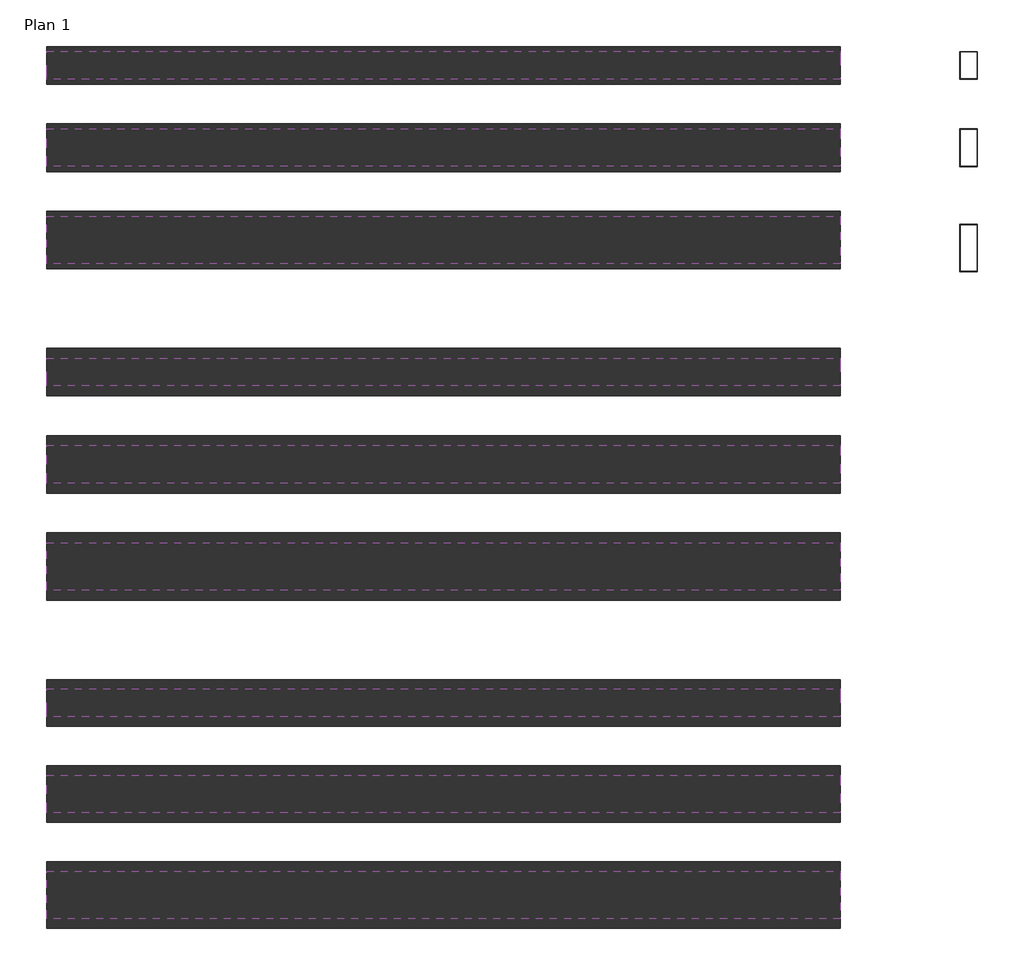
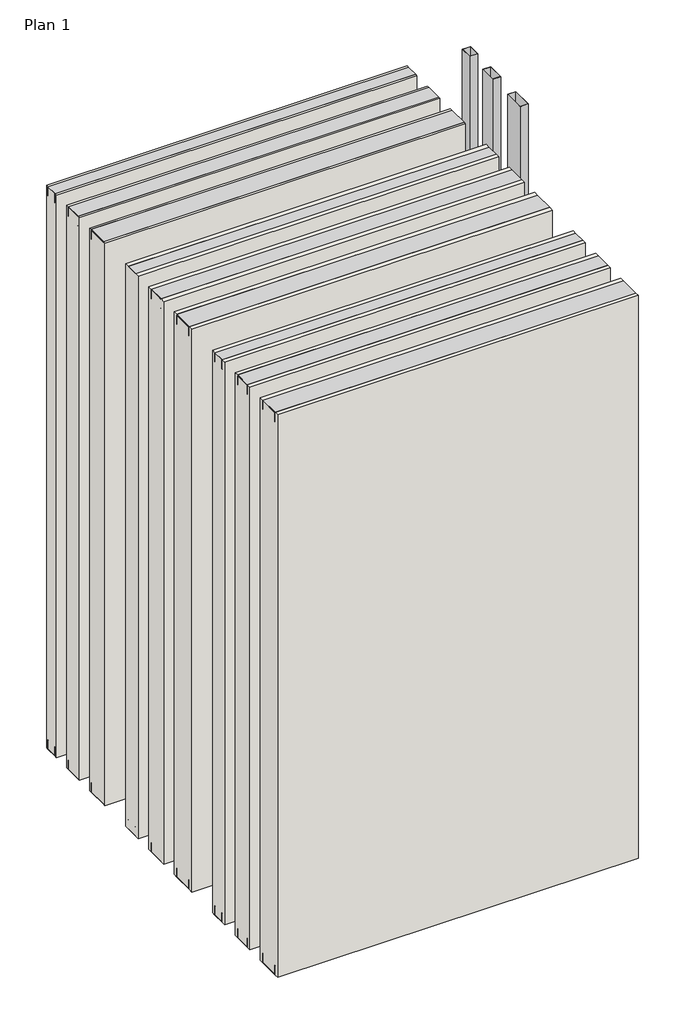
# One storey: 18 proxies, 9 walls, 3 columns.
"""IFC4 building model written with IfcOpenShell, lengths in millimetres."""

import ifcopenshell
import ifcopenshell.guid

model = None  # the IFC model being written
_history = None  # IfcOwnerHistory: only IFC2X3 demands one
_inside = {}  # id of a spatial element -> (the spatial element, [elements in it])
_under = {}  # id of a project, library or spatial element -> (it, [spatial elements below it])
_declared = {}  # id of a project -> (the project, [libraries it declares])
_typed = {}  # id of a type object -> (the type object, [elements of that type])
_made_of = {}  # id of a material, layer set ... -> (it, [elements and type objects made of it])


def new_model(schema):
    """Start an empty IFC model of exactly this schema.

    Asked for "IFC4X3", IfcOpenShell would pick the latest addendum, in which some entities
    have other attributes; the version numbers below select the first issue.
    IFC2X3 requires an IfcOwnerHistory on every rooted entity: one is made here for all.
    """
    global model, _history
    if schema == "IFC4X3":
        model = ifcopenshell.file(schema_version=(4, 3, 0, 0))
    else:
        model = ifcopenshell.file(schema=schema)
    _inside.clear()
    _under.clear()
    _declared.clear()
    _typed.clear()
    _made_of.clear()
    _history = None
    if model.schema == "IFC2X3":
        org = make("IfcOrganization", Name="unknown")
        user = make(
            "IfcPersonAndOrganization",
            ThePerson=make("IfcPerson", FamilyName="unknown"),
            TheOrganization=org,
        )
        app = make(
            "IfcApplication",
            ApplicationDeveloper=org,
            Version="unknown",
            ApplicationFullName="unknown",
            ApplicationIdentifier="unknown",
        )
        _history = make(
            "IfcOwnerHistory",
            OwningUser=user,
            OwningApplication=app,
            ChangeAction="ADDED",
            CreationDate=0,
        )
    return model


def make(cls, **values):
    """One entity of the class cls with the attributes given. An attribute that is None is left unset."""
    return model.create_entity(
        cls, **{name: value for name, value in values.items() if value is not None}
    )


def rooted(cls, **values):
    """An entity with a GlobalId (a new one), such as an element, a storey or a relation."""
    return make(cls, GlobalId=ifcopenshell.guid.new(), OwnerHistory=_history, **values)


def si_unit(unit_type, name, prefix=None):
    """IfcSIUnit, for example si_unit("LENGTHUNIT", "METRE", prefix="MILLI")."""
    return make("IfcSIUnit", UnitType=unit_type, Prefix=prefix, Name=name)


def assignment(units):
    """IfcUnitAssignment: the units of a project."""
    return None if units is None else make("IfcUnitAssignment", Units=units)


def point(xyz):
    """IfcCartesianPoint."""
    return None if xyz is None else make("IfcCartesianPoint", Coordinates=xyz)


def direction(xyz):
    """IfcDirection."""
    return None if xyz is None else make("IfcDirection", DirectionRatios=xyz)


def frame(location, z_axis=None, x_axis=None):
    """IfcAxis2Placement3D, a coordinate frame: its origin and axes. An axis left out is left unset."""
    return make(
        "IfcAxis2Placement3D",
        Location=point(location),
        Axis=direction(z_axis),
        RefDirection=direction(x_axis),
    )


def origin():
    """The frame at (0, 0, 0) with its axes left unset."""
    return frame((0.0, 0.0, 0.0))


def origin_with_axes():
    """The frame at (0, 0, 0) with the z axis (0, 0, 1) and the x axis (1, 0, 0) written out."""
    return frame((0.0, 0.0, 0.0), z_axis=(0.0, 0.0, 1.0), x_axis=(1.0, 0.0, 0.0))


def place(relative_to, where):
    """IfcLocalPlacement: puts the frame where relative to a parent placement (None: the world)."""
    return make(
        "IfcLocalPlacement", PlacementRelTo=relative_to, RelativePlacement=where
    )


def context(
    kind, dimensions, precision=None, world=None, true_north=None, identifier=None
):
    """IfcGeometricRepresentationContext, for example the 3D "Model" context."""
    return make(
        "IfcGeometricRepresentationContext",
        ContextIdentifier=identifier,
        ContextType=kind,
        CoordinateSpaceDimension=dimensions,
        Precision=precision,
        WorldCoordinateSystem=world,
        TrueNorth=true_north,
    )


def project(units=None, contexts=None):
    """IfcProject with its units and contexts."""
    return rooted(
        "IfcProject",
        Name="project",
        RepresentationContexts=contexts,
        UnitsInContext=assignment(units),
    )


def spatial(cls, under=None, at=None, **own):
    """A site, building, storey or space (cls), placed at a placement, below another one or the project."""
    s = rooted(cls, ObjectPlacement=at, **own)
    if under is not None:
        _under.setdefault(under.id(), (under, []))[1].append(s)
    return s


def polyline(points):
    """IfcPolyline through the points."""
    return make("IfcPolyline", Points=[point(p) for p in points])


def outline(outer, holes=None, kind="AREA"):
    """IfcArbitraryClosedProfileDef: a profile drawn as a closed curve; with holes, ...WithVoids."""
    if holes is None:
        return make("IfcArbitraryClosedProfileDef", ProfileType=kind, OuterCurve=outer)
    return make(
        "IfcArbitraryProfileDefWithVoids",
        ProfileType=kind,
        OuterCurve=outer,
        InnerCurves=holes,
    )


def extrude(swept, where, along, depth):
    """IfcExtrudedAreaSolid: the profile swept, set in the frame where, extruded along a direction by depth."""
    return make(
        "IfcExtrudedAreaSolid",
        SweptArea=swept,
        Position=where,
        ExtrudedDirection=direction(along),
        Depth=depth,
    )


def shape(context_of_items, identifier, shape_type, items):
    """IfcShapeRepresentation: the items that make up one representation, for example the "Body"."""
    return make(
        "IfcShapeRepresentation",
        ContextOfItems=context_of_items,
        RepresentationIdentifier=identifier,
        RepresentationType=shape_type,
        Items=items,
    )


def source(mapping_origin, context_of_items, identifier, shape_type, items):
    """IfcRepresentationMap: a shape defined once, which mapped items show again and again."""
    return make(
        "IfcRepresentationMap",
        MappingOrigin=mapping_origin,
        MappedRepresentation=shape(context_of_items, identifier, shape_type, items),
    )


def transform(
    local_origin,
    x_axis=None,
    y_axis=None,
    z_axis=None,
    scale=None,
    scale2=None,
    scale3=None,
    uniform=True,
):
    """IfcCartesianTransformationOperator3D, or its non-uniform kind. x_axis, y_axis, z_axis: its Axis1, 2, 3."""
    if uniform:
        return make(
            "IfcCartesianTransformationOperator3D",
            Axis1=direction(x_axis),
            Axis2=direction(y_axis),
            LocalOrigin=point(local_origin),
            Scale=scale,
            Axis3=direction(z_axis),
        )
    return make(
        "IfcCartesianTransformationOperator3DnonUniform",
        Axis1=direction(x_axis),
        Axis2=direction(y_axis),
        LocalOrigin=point(local_origin),
        Scale=scale,
        Axis3=direction(z_axis),
        Scale2=scale2,
        Scale3=scale3,
    )


def mapped(mapping_source, mapping_target):
    """IfcMappedItem: shows the shape of a source again, moved by a transform."""
    return make(
        "IfcMappedItem", MappingSource=mapping_source, MappingTarget=mapping_target
    )


def made_of(thing, what):
    """Note that an element or type object is made of a material, layer set ...; save() writes the relation."""
    if what is not None:
        _made_of.setdefault(what.id(), (what, []))[1].append(thing)
    return thing


def element(
    cls,
    number,
    at=None,
    inside=None,
    cuts=None,
    type_object=None,
    material=None,
    context=None,
    identifier="Body",
    shape_type=None,
    held_by="IfcProductDefinitionShape",
    body=None,
    shapes=None,
    **own,
):
    """One element of the class cls, such as IfcWall. Its Tag is "e" and its number.

    at: its placement. inside: the storey or other place that contains it. cuts: it is an
    opening in that element (IfcRelVoidsElement). A single representation is given by context,
    identifier, shape_type and body (its items); several are given by shapes. held_by: the class
    of the entity that holds the representations. save() writes the other relations.
    """
    e = rooted(cls, Tag="e%d" % number, ObjectPlacement=at, **own)
    if body is not None:
        shapes = [shape(context, identifier, shape_type, body)]
    if shapes is not None:
        e.Representation = make(held_by, Representations=shapes)
    if inside is not None:
        _inside.setdefault(inside.id(), (inside, []))[1].append(e)
    if cuts is not None:
        rooted(
            "IfcRelVoidsElement", RelatingBuildingElement=cuts, RelatedOpeningElement=e
        )
    if type_object is not None:
        _typed.setdefault(type_object.id(), (type_object, []))[1].append(e)
    return made_of(e, material)


def aggregate(whole, parts):
    """IfcRelAggregates: a whole, such as a stair, and the parts it consists of."""
    return rooted("IfcRelAggregates", RelatingObject=whole, RelatedObjects=parts)


def save(model, path):
    """Write the relations noted so far, then the file.

    IfcRelAggregates (storeys below a building ...), IfcRelContainedInSpatialStructure (elements
    in a storey), IfcRelDefinesByType, IfcRelAssociatesMaterial and IfcRelDeclares: one each for
    every whole, place, type object, material and project.
    """
    for whole, parts in _under.values():
        aggregate(whole, parts)
    for where, things in _inside.values():
        rooted(
            "IfcRelContainedInSpatialStructure",
            RelatedElements=things,
            RelatingStructure=where,
        )
    for kind, things in _typed.values():
        rooted("IfcRelDefinesByType", RelatedObjects=things, RelatingType=kind)
    for what, things in _made_of.values():
        rooted("IfcRelAssociatesMaterial", RelatedObjects=things, RelatingMaterial=what)
    for by, libraries in _declared.values():
        rooted("IfcRelDeclares", RelatingContext=by, RelatedDefinitions=libraries)
    model.write(path)


def column_45_x_120_7c1e366e(model_context):
    return source(origin(), model_context, "Body", "SweptSolid", [
        extrude(outline(polyline([(22.5, -60.0), (-22.5, -60.0), (-22.5, 60.0), (22.5, 60.0), (22.5, -60.0)]), holes=[polyline([(20.2, 57.7), (-20.2, 57.7), (-20.2, -57.7), (20.2, -57.7), (20.2, 57.7)])]), origin_with_axes(), (0.0, 0.0, 1.0), 3300.0),
    ])


def column_45_x_70_e94f2b7f(model_context):
    return source(origin(), model_context, "Body", "SweptSolid", [
        extrude(outline(polyline([(22.5, -35.0), (-22.5, -35.0), (-22.5, 35.0), (22.5, 35.0), (22.5, -35.0)]), holes=[polyline([(20.2, 32.7), (-20.2, 32.7), (-20.2, -32.7), (20.2, -32.7), (20.2, 32.7)])]), origin_with_axes(), (0.0, 0.0, 1.0), 3300.0),
    ])


def column_45_x_95_4a781784(model_context):
    return source(origin(), model_context, "Body", "SweptSolid", [
        extrude(outline(polyline([(22.5, -47.5), (-22.5, -47.5), (-22.5, 47.5), (22.5, 47.5), (22.5, -47.5)]), holes=[polyline([(20.2, 45.2), (-20.2, 45.2), (-20.2, -45.2), (20.2, -45.2), (20.2, 45.2)])]), origin_with_axes(), (0.0, 0.0, 1.0), 3300.0),
    ])


model = new_model("IFC4")

# Units and contexts
model_context = context("Model", 3, world=origin())
ifc_project = project(units=[si_unit("LENGTHUNIT", "METRE", prefix="MILLI")], contexts=[model_context])

# Site, building, storey
site = spatial("IfcSite", under=ifc_project)
building = spatial("IfcBuilding", under=site)
storey = spatial("IfcBuildingStorey", under=building, Name="Plan 1", Elevation=0.0)

# Proxies
placement = place(None, origin())
element("IfcBuildingElementProxy", 1, Name="Wall Sweeps", at=placement, inside=storey, context=model_context, shape_type="SweptSolid", body=[
    extrude(outline(polyline([(-2025.7976736, 0.0), (-2025.7976736, 55.0), (-2022.7976736, 55.0), (-2022.7976736, 3.0), (-1908.7976736, 3.0), (-1908.7976736, 55.0), (-1905.7976736, 55.0), (-1905.7976736, 0.0), (-2025.7976736, 0.0)])), frame((6576.1331916, 0.0, 0.0), z_axis=(1.0, 0.0, 0.0), x_axis=(0.0, 1.0, 0.0)), (0.0, 0.0, 1.0), 2000.0),
])
element("IfcBuildingElementProxy", 2, Name="Wall Sweeps", at=placement, inside=storey, context=model_context, shape_type="SweptSolid", body=[
    extrude(outline(polyline([(-1560.7976736, 3300.0), (-1490.7976736, 3300.0), (-1490.7976736, 3245.0), (-1493.7976736, 3245.0), (-1493.7976736, 3297.0), (-1557.7976736, 3297.0), (-1557.7976736, 3245.0), (-1560.7976736, 3245.0), (-1560.7976736, 3300.0)])), frame((6576.1331916, 0.0, 0.0), z_axis=(1.0, 0.0, 0.0), x_axis=(0.0, 1.0, 0.0)), (0.0, 0.0, 1.0), 2000.0),
])
element("IfcBuildingElementProxy", 3, Name="Wall Sweeps", at=placement, inside=storey, context=model_context, shape_type="SweptSolid", body=[
    extrude(outline(polyline([(-1560.7976736, 0.0), (-1560.7976736, 55.0), (-1557.7976736, 55.0), (-1557.7976736, 3.0), (-1493.7976736, 3.0), (-1493.7976736, 55.0), (-1490.7976736, 55.0), (-1490.7976736, 0.0), (-1560.7976736, 0.0)])), frame((6576.1331916, 0.0, 0.0), z_axis=(1.0, 0.0, 0.0), x_axis=(0.0, 1.0, 0.0)), (0.0, 0.0, 1.0), 2000.0),
])
element("IfcBuildingElementProxy", 4, Name="Wall Sweeps", at=placement, inside=storey, context=model_context, shape_type="SweptSolid", body=[
    extrude(outline(polyline([(-1780.7976736, 3300.0), (-1685.7976736, 3300.0), (-1685.7976736, 3245.0), (-1688.7976736, 3245.0), (-1688.7976736, 3297.0), (-1777.7976736, 3297.0), (-1777.7976736, 3245.0), (-1780.7976736, 3245.0), (-1780.7976736, 3300.0)])), frame((6576.1331916, 0.0, 0.0), z_axis=(1.0, 0.0, 0.0), x_axis=(0.0, 1.0, 0.0)), (0.0, 0.0, 1.0), 2000.0),
])
element("IfcBuildingElementProxy", 5, Name="Wall Sweeps", at=placement, inside=storey, context=model_context, shape_type="SweptSolid", body=[
    extrude(outline(polyline([(-1780.7976736, 0.0), (-1780.7976736, 55.0), (-1777.7976736, 55.0), (-1777.7976736, 3.0), (-1688.7976736, 3.0), (-1688.7976736, 55.0), (-1685.7976736, 55.0), (-1685.7976736, 0.0), (-1780.7976736, 0.0)])), frame((6576.1331916, 0.0, 0.0), z_axis=(1.0, 0.0, 0.0), x_axis=(0.0, 1.0, 0.0)), (0.0, 0.0, 1.0), 2000.0),
])
element("IfcBuildingElementProxy", 6, Name="Wall Sweeps", at=placement, inside=storey, context=model_context, shape_type="SweptSolid", body=[
    extrude(outline(polyline([(-2025.7976736, 3300.0), (-1905.7976736, 3300.0), (-1905.7976736, 3245.0), (-1908.7976736, 3245.0), (-1908.7976736, 3297.0), (-2022.7976736, 3297.0), (-2022.7976736, 3245.0), (-2025.7976736, 3245.0), (-2025.7976736, 3300.0)])), frame((6576.1331916, 0.0, 0.0), z_axis=(1.0, 0.0, 0.0), x_axis=(0.0, 1.0, 0.0)), (0.0, 0.0, 1.0), 2000.0),
])
element("IfcBuildingElementProxy", 7, Name="Wall Sweeps", at=placement, inside=storey, context=model_context, shape_type="SweptSolid", body=[
    extrude(outline(polyline([(-2848.2976736, 0.0), (-2848.2976736, 55.0), (-2845.2976736, 55.0), (-2845.2976736, 3.0), (-2731.2976736, 3.0), (-2731.2976736, 55.0), (-2728.2976736, 55.0), (-2728.2976736, 0.0), (-2848.2976736, 0.0)])), frame((6576.1331916, 0.0, 0.0), z_axis=(1.0, 0.0, 0.0), x_axis=(0.0, 1.0, 0.0)), (0.0, 0.0, 1.0), 2000.0),
])
element("IfcBuildingElementProxy", 8, Name="Wall Sweeps", at=placement, inside=storey, context=model_context, shape_type="SweptSolid", body=[
    extrude(outline(polyline([(-2333.2976736, 3300.0), (-2263.2976736, 3300.0), (-2263.2976736, 3245.0), (-2266.2976736, 3245.0), (-2266.2976736, 3297.0), (-2330.2976736, 3297.0), (-2330.2976736, 3245.0), (-2333.2976736, 3245.0), (-2333.2976736, 3300.0)])), frame((6576.1331916, 0.0, 0.0), z_axis=(1.0, 0.0, 0.0), x_axis=(0.0, 1.0, 0.0)), (0.0, 0.0, 1.0), 2000.0),
])
element("IfcBuildingElementProxy", 9, Name="Wall Sweeps", at=placement, inside=storey, context=model_context, shape_type="SweptSolid", body=[
    extrude(outline(polyline([(-2333.2976736, 0.0), (-2333.2976736, 55.0), (-2330.2976736, 55.0), (-2330.2976736, 3.0), (-2266.2976736, 3.0), (-2266.2976736, 55.0), (-2263.2976736, 55.0), (-2263.2976736, 0.0), (-2333.2976736, 0.0)])), frame((6576.1331916, 0.0, 0.0), z_axis=(1.0, 0.0, 0.0), x_axis=(0.0, 1.0, 0.0)), (0.0, 0.0, 1.0), 2000.0),
])
element("IfcBuildingElementProxy", 10, Name="Wall Sweeps", at=placement, inside=storey, context=model_context, shape_type="SweptSolid", body=[
    extrude(outline(polyline([(-2578.2976736, 3300.0), (-2483.2976736, 3300.0), (-2483.2976736, 3245.0), (-2486.2976736, 3245.0), (-2486.2976736, 3297.0), (-2575.2976736, 3297.0), (-2575.2976736, 3245.0), (-2578.2976736, 3245.0), (-2578.2976736, 3300.0)])), frame((6576.1331916, 0.0, 0.0), z_axis=(1.0, 0.0, 0.0), x_axis=(0.0, 1.0, 0.0)), (0.0, 0.0, 1.0), 2000.0),
])
element("IfcBuildingElementProxy", 11, Name="Wall Sweeps", at=placement, inside=storey, context=model_context, shape_type="SweptSolid", body=[
    extrude(outline(polyline([(-2578.2976736, 0.0), (-2578.2976736, 55.0), (-2575.2976736, 55.0), (-2575.2976736, 3.0), (-2486.2976736, 3.0), (-2486.2976736, 55.0), (-2483.2976736, 55.0), (-2483.2976736, 0.0), (-2578.2976736, 0.0)])), frame((6576.1331916, 0.0, 0.0), z_axis=(1.0, 0.0, 0.0), x_axis=(0.0, 1.0, 0.0)), (0.0, 0.0, 1.0), 2000.0),
])
element("IfcBuildingElementProxy", 12, Name="Wall Sweeps", at=placement, inside=storey, context=model_context, shape_type="SweptSolid", body=[
    extrude(outline(polyline([(-2848.2976736, 3300.0), (-2728.2976736, 3300.0), (-2728.2976736, 3245.0), (-2731.2976736, 3245.0), (-2731.2976736, 3297.0), (-2845.2976736, 3297.0), (-2845.2976736, 3245.0), (-2848.2976736, 3245.0), (-2848.2976736, 3300.0)])), frame((6576.1331916, 0.0, 0.0), z_axis=(1.0, 0.0, 0.0), x_axis=(0.0, 1.0, 0.0)), (0.0, 0.0, 1.0), 2000.0),
])
element("IfcBuildingElementProxy", 13, Name="Wall Sweeps", at=placement, inside=storey, context=model_context, shape_type="SweptSolid", body=[
    extrude(outline(polyline([(-3676.2976736, 0.0), (-3676.2976736, 55.0), (-3673.2976736, 55.0), (-3673.2976736, 3.0), (-3559.2976736, 3.0), (-3559.2976736, 55.0), (-3556.2976736, 55.0), (-3556.2976736, 0.0), (-3676.2976736, 0.0)])), frame((6576.1331916, 0.0, 0.0), z_axis=(1.0, 0.0, 0.0), x_axis=(0.0, 1.0, 0.0)), (0.0, 0.0, 1.0), 2000.0),
])
element("IfcBuildingElementProxy", 14, Name="Wall Sweeps", at=placement, inside=storey, context=model_context, shape_type="SweptSolid", body=[
    extrude(outline(polyline([(-3166.7976736, 3300.0), (-3096.7976736, 3300.0), (-3096.7976736, 3245.0), (-3099.7976736, 3245.0), (-3099.7976736, 3297.0), (-3163.7976736, 3297.0), (-3163.7976736, 3245.0), (-3166.7976736, 3245.0), (-3166.7976736, 3300.0)])), frame((6576.1331916, 0.0, 0.0), z_axis=(1.0, 0.0, 0.0), x_axis=(0.0, 1.0, 0.0)), (0.0, 0.0, 1.0), 2000.0),
])
element("IfcBuildingElementProxy", 15, Name="Wall Sweeps", at=placement, inside=storey, context=model_context, shape_type="SweptSolid", body=[
    extrude(outline(polyline([(-3166.7976736, 0.0), (-3166.7976736, 55.0), (-3163.7976736, 55.0), (-3163.7976736, 3.0), (-3099.7976736, 3.0), (-3099.7976736, 55.0), (-3096.7976736, 55.0), (-3096.7976736, 0.0), (-3166.7976736, 0.0)])), frame((6576.1331916, 0.0, 0.0), z_axis=(1.0, 0.0, 0.0), x_axis=(0.0, 1.0, 0.0)), (0.0, 0.0, 1.0), 2000.0),
])
element("IfcBuildingElementProxy", 16, Name="Wall Sweeps", at=placement, inside=storey, context=model_context, shape_type="SweptSolid", body=[
    extrude(outline(polyline([(-3408.7976736, 3300.0), (-3313.7976736, 3300.0), (-3313.7976736, 3245.0), (-3316.7976736, 3245.0), (-3316.7976736, 3297.0), (-3405.7976736, 3297.0), (-3405.7976736, 3245.0), (-3408.7976736, 3245.0), (-3408.7976736, 3300.0)])), frame((6576.1331916, 0.0, 0.0), z_axis=(1.0, 0.0, 0.0), x_axis=(0.0, 1.0, 0.0)), (0.0, 0.0, 1.0), 2000.0),
])
element("IfcBuildingElementProxy", 17, Name="Wall Sweeps", at=placement, inside=storey, context=model_context, shape_type="SweptSolid", body=[
    extrude(outline(polyline([(-3408.7976736, 0.0), (-3408.7976736, 55.0), (-3405.7976736, 55.0), (-3405.7976736, 3.0), (-3316.7976736, 3.0), (-3316.7976736, 55.0), (-3313.7976736, 55.0), (-3313.7976736, 0.0), (-3408.7976736, 0.0)])), frame((6576.1331916, 0.0, 0.0), z_axis=(1.0, 0.0, 0.0), x_axis=(0.0, 1.0, 0.0)), (0.0, 0.0, 1.0), 2000.0),
])
element("IfcBuildingElementProxy", 18, Name="Wall Sweeps", at=placement, inside=storey, context=model_context, shape_type="SweptSolid", body=[
    extrude(outline(polyline([(-3676.2976736, 3300.0), (-3556.2976736, 3300.0), (-3556.2976736, 3245.0), (-3559.2976736, 3245.0), (-3559.2976736, 3297.0), (-3673.2976736, 3297.0), (-3673.2976736, 3245.0), (-3676.2976736, 3245.0), (-3676.2976736, 3300.0)])), frame((6576.1331916, 0.0, 0.0), z_axis=(1.0, 0.0, 0.0), x_axis=(0.0, 1.0, 0.0)), (0.0, 0.0, 1.0), 2000.0),
])

# Columns
column_45_x_120_shape = column_45_x_120_7c1e366e(model_context)
element("IfcColumn", 19, ObjectType="Wood Tube Pappersregel : 45 x 120", at=placement, inside=storey, context=model_context, shape_type="MappedRepresentation", body=[
    mapped(column_45_x_120_shape, transform((8898.6331916, -1985.7976736, 0.0), x_axis=(1.0, 0.0, 0.0), y_axis=(0.0, 1.0, 0.0), z_axis=(0.0, 0.0, 1.0))),
])
column_45_x_70_shape = column_45_x_70_e94f2b7f(model_context)
element("IfcColumn", 20, ObjectType="Wood Tube Pappersregel : 45 x 70", at=placement, inside=storey, context=model_context, shape_type="MappedRepresentation", body=[
    mapped(column_45_x_70_shape, transform((8898.6331916, -1525.7976736, 0.0), x_axis=(1.0, 0.0, 0.0), y_axis=(0.0, 1.0, 0.0), z_axis=(0.0, 0.0, 1.0))),
])
column_45_x_95_shape = column_45_x_95_4a781784(model_context)
element("IfcColumn", 21, ObjectType="Wood Tube Pappersregel : 45 x 95", at=placement, inside=storey, context=model_context, shape_type="MappedRepresentation", body=[
    mapped(column_45_x_95_shape, transform((8898.6331916, -1733.2976736, 0.0), x_axis=(1.0, 0.0, 0.0), y_axis=(0.0, 1.0, 0.0), z_axis=(0.0, 0.0, 1.0))),
])

# Walls
element("IfcWall", 22, ObjectType="Wood Tube Innervägg 95 (70-regel, enkelgips)", at=placement, inside=storey, context=model_context, shape_type="SweptSolid", body=[
    extrude(outline(polyline([(-1573.2976736, 0.0), (-1573.2976736, 3300.0), (-1560.7976736, 3300.0), (-1560.7976736, 3245.0), (-1557.7976736, 3245.0), (-1557.7976736, 3297.0), (-1493.7976736, 3297.0), (-1493.7976736, 3245.0), (-1490.7976736, 3245.0), (-1490.7976736, 3300.0), (-1478.2976736, 3300.0), (-1478.2976736, 0.0), (-1490.7976736, 0.0), (-1490.7976736, 55.0), (-1493.7976736, 55.0), (-1493.7976736, 3.0), (-1557.7976736, 3.0), (-1557.7976736, 55.0), (-1560.7976736, 55.0), (-1560.7976736, 0.0), (-1573.2976736, 0.0)])), frame((6576.1331916, 0.0, 0.0), z_axis=(1.0, 0.0, 0.0), x_axis=(0.0, 1.0, 0.0)), (0.0, 0.0, 1.0), 2000.0),
])
element("IfcWall", 23, ObjectType="Wood Tube Innervägg 120 (95-regel, enkelgips)", at=placement, inside=storey, context=model_context, shape_type="SweptSolid", body=[
    extrude(outline(polyline([(-1793.2976736, 0.0), (-1793.2976736, 3300.0), (-1780.7976736, 3300.0), (-1780.7976736, 3245.0), (-1777.7976736, 3245.0), (-1777.7976736, 3297.0), (-1688.7976736, 3297.0), (-1688.7976736, 3245.0), (-1685.7976736, 3245.0), (-1685.7976736, 3300.0), (-1673.2976736, 3300.0), (-1673.2976736, 0.0), (-1685.7976736, 0.0), (-1685.7976736, 55.0), (-1688.7976736, 55.0), (-1688.7976736, 3.0), (-1777.7976736, 3.0), (-1777.7976736, 55.0), (-1780.7976736, 55.0), (-1780.7976736, 0.0), (-1793.2976736, 0.0)])), frame((6576.1331916, 0.0, 0.0), z_axis=(1.0, 0.0, 0.0), x_axis=(0.0, 1.0, 0.0)), (0.0, 0.0, 1.0), 2000.0),
])
element("IfcWall", 24, ObjectType="Wood Tube Innervägg 145 (120-regel, enkelgips)", at=placement, inside=storey, context=model_context, shape_type="SweptSolid", body=[
    extrude(outline(polyline([(-2038.2976736, 0.0), (-2038.2976736, 3300.0), (-2025.7976736, 3300.0), (-2025.7976736, 3245.0), (-2022.7976736, 3245.0), (-2022.7976736, 3297.0), (-1908.7976736, 3297.0), (-1908.7976736, 3245.0), (-1905.7976736, 3245.0), (-1905.7976736, 3300.0), (-1893.2976736, 3300.0), (-1893.2976736, 0.0), (-1905.7976736, 0.0), (-1905.7976736, 55.0), (-1908.7976736, 55.0), (-1908.7976736, 3.0), (-2022.7976736, 3.0), (-2022.7976736, 55.0), (-2025.7976736, 55.0), (-2025.7976736, 0.0), (-2038.2976736, 0.0)])), frame((6576.1331916, 0.0, 0.0), z_axis=(1.0, 0.0, 0.0), x_axis=(0.0, 1.0, 0.0)), (0.0, 0.0, 1.0), 2000.0),
])
element("IfcWall", 25, ObjectType="Wood Tube Innervägg 120 (70-regel, dubbelgips)", at=placement, inside=storey, context=model_context, shape_type="SweptSolid", body=[
    extrude(outline(polyline([(-2358.2976736, 0.0), (-2358.2976736, 3300.0), (-2333.2976736, 3300.0), (-2333.2976736, 3245.0), (-2330.2976736, 3245.0), (-2330.2976736, 3297.0), (-2266.2976736, 3297.0), (-2266.2976736, 3245.0), (-2263.2976736, 3245.0), (-2263.2976736, 3300.0), (-2238.2976736, 3300.0), (-2238.2976736, 0.0), (-2263.2976736, 0.0), (-2263.2976736, 55.0), (-2266.2976736, 55.0), (-2266.2976736, 3.0), (-2330.2976736, 3.0), (-2330.2976736, 55.0), (-2333.2976736, 55.0), (-2333.2976736, 0.0), (-2358.2976736, 0.0)])), frame((6576.1331916, 0.0, 0.0), z_axis=(1.0, 0.0, 0.0), x_axis=(0.0, 1.0, 0.0)), (0.0, 0.0, 1.0), 2000.0),
])
element("IfcWall", 26, ObjectType="Wood Tube Innervägg 145 (95-regel, dubbelgips)", at=placement, inside=storey, context=model_context, shape_type="SweptSolid", body=[
    extrude(outline(polyline([(-2603.2976736, 0.0), (-2603.2976736, 3300.0), (-2578.2976736, 3300.0), (-2578.2976736, 3245.0), (-2575.2976736, 3245.0), (-2575.2976736, 3297.0), (-2486.2976736, 3297.0), (-2486.2976736, 3245.0), (-2483.2976736, 3245.0), (-2483.2976736, 3300.0), (-2458.2976736, 3300.0), (-2458.2976736, 0.0), (-2483.2976736, 0.0), (-2483.2976736, 55.0), (-2486.2976736, 55.0), (-2486.2976736, 3.0), (-2575.2976736, 3.0), (-2575.2976736, 55.0), (-2578.2976736, 55.0), (-2578.2976736, 0.0), (-2603.2976736, 0.0)])), frame((6576.1331916, 0.0, 0.0), z_axis=(1.0, 0.0, 0.0), x_axis=(0.0, 1.0, 0.0)), (0.0, 0.0, 1.0), 2000.0),
])
element("IfcWall", 27, ObjectType="Wood Tube Innervägg 170 (120-regel, dubbelgips)", at=placement, inside=storey, context=model_context, shape_type="SweptSolid", body=[
    extrude(outline(polyline([(-2873.2976736, 0.0), (-2873.2976736, 3300.0), (-2848.2976736, 3300.0), (-2848.2976736, 3245.0), (-2845.2976736, 3245.0), (-2845.2976736, 3297.0), (-2731.2976736, 3297.0), (-2731.2976736, 3245.0), (-2728.2976736, 3245.0), (-2728.2976736, 3300.0), (-2703.2976736, 3300.0), (-2703.2976736, 0.0), (-2728.2976736, 0.0), (-2728.2976736, 55.0), (-2731.2976736, 55.0), (-2731.2976736, 3.0), (-2845.2976736, 3.0), (-2845.2976736, 55.0), (-2848.2976736, 55.0), (-2848.2976736, 0.0), (-2873.2976736, 0.0)])), frame((6576.1331916, 0.0, 0.0), z_axis=(1.0, 0.0, 0.0), x_axis=(0.0, 1.0, 0.0)), (0.0, 0.0, 1.0), 2000.0),
])
element("IfcWall", 28, ObjectType="Wood Tube Innervägg 117 (70-regel, OSB + gips)", at=placement, inside=storey, context=model_context, shape_type="SweptSolid", body=[
    extrude(outline(polyline([(-3190.2976736, 0.0), (-3190.2976736, 3300.0), (-3166.7976736, 3300.0), (-3166.7976736, 3245.0), (-3163.7976736, 3245.0), (-3163.7976736, 3297.0), (-3099.7976736, 3297.0), (-3099.7976736, 3245.0), (-3096.7976736, 3245.0), (-3096.7976736, 3300.0), (-3073.2976736, 3300.0), (-3073.2976736, 0.0), (-3096.7976736, 0.0), (-3096.7976736, 55.0), (-3099.7976736, 55.0), (-3099.7976736, 3.0), (-3163.7976736, 3.0), (-3163.7976736, 55.0), (-3166.7976736, 55.0), (-3166.7976736, 0.0), (-3190.2976736, 0.0)])), frame((6576.1331916, 0.0, 0.0), z_axis=(1.0, 0.0, 0.0), x_axis=(0.0, 1.0, 0.0)), (0.0, 0.0, 1.0), 2000.0),
])
element("IfcWall", 29, ObjectType="Wood Tube Innervägg 142 (95-regel, OSB + gips)", at=placement, inside=storey, context=model_context, shape_type="SweptSolid", body=[
    extrude(outline(polyline([(-3432.2976736, 0.0), (-3432.2976736, 3300.0), (-3408.7976736, 3300.0), (-3408.7976736, 3245.0), (-3405.7976736, 3245.0), (-3405.7976736, 3297.0), (-3316.7976736, 3297.0), (-3316.7976736, 3245.0), (-3313.7976736, 3245.0), (-3313.7976736, 3300.0), (-3290.2976736, 3300.0), (-3290.2976736, 0.0), (-3313.7976736, 0.0), (-3313.7976736, 55.0), (-3316.7976736, 55.0), (-3316.7976736, 3.0), (-3405.7976736, 3.0), (-3405.7976736, 55.0), (-3408.7976736, 55.0), (-3408.7976736, 0.0), (-3432.2976736, 0.0)])), frame((6576.1331916, 0.0, 0.0), z_axis=(1.0, 0.0, 0.0), x_axis=(0.0, 1.0, 0.0)), (0.0, 0.0, 1.0), 2000.0),
])
element("IfcWall", 30, ObjectType="Wood Tube Innervägg 167 (120-regel, OSB + gips)", at=placement, inside=storey, context=model_context, shape_type="SweptSolid", body=[
    extrude(outline(polyline([(-3699.2976736, 0.0), (-3699.2976736, 3300.0), (-3676.2976736, 3300.0), (-3676.2976736, 3245.0), (-3673.2976736, 3245.0), (-3673.2976736, 3297.0), (-3559.2976736, 3297.0), (-3559.2976736, 3245.0), (-3556.2976736, 3245.0), (-3556.2976736, 3300.0), (-3532.2976736, 3300.0), (-3532.2976736, 0.0), (-3556.2976736, 0.0), (-3556.2976736, 55.0), (-3559.2976736, 55.0), (-3559.2976736, 3.0), (-3673.2976736, 3.0), (-3673.2976736, 55.0), (-3676.2976736, 55.0), (-3676.2976736, 0.0), (-3699.2976736, 0.0)])), frame((6576.1331916, 0.0, 0.0), z_axis=(1.0, 0.0, 0.0), x_axis=(0.0, 1.0, 0.0)), (0.0, 0.0, 1.0), 2000.0),
])

save(model, "model.ifc")
